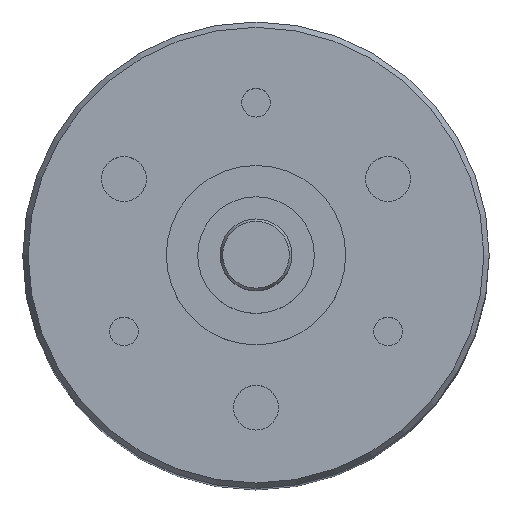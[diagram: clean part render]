
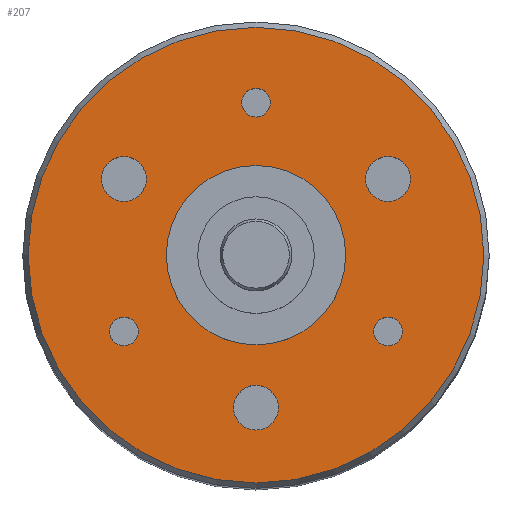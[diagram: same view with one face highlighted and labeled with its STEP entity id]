
A CAD part, top view. The second image highlights one B-rep face of the part: STEP entity #207.
In plain terms, the highlighted planar face has unit normal (0, 0, 1).
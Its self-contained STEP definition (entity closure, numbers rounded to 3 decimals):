
#207=ADVANCED_FACE('',(#569,#570,#571,#572,#573,#574,#575,#576),#314,.T.);
#314=PLANE('',#1834);
#569=FACE_BOUND('',#682,.T.);
#570=FACE_BOUND('',#683,.T.);
#571=FACE_BOUND('',#684,.T.);
#572=FACE_BOUND('',#685,.T.);
#573=FACE_BOUND('',#686,.T.);
#574=FACE_BOUND('',#687,.T.);
#575=FACE_BOUND('',#688,.T.);
#576=FACE_BOUND('',#689,.T.);
#682=EDGE_LOOP('',(#961));
#683=EDGE_LOOP('',(#962));
#684=EDGE_LOOP('',(#963));
#685=EDGE_LOOP('',(#964));
#686=EDGE_LOOP('',(#965));
#687=EDGE_LOOP('',(#966));
#688=EDGE_LOOP('',(#967));
#689=EDGE_LOOP('',(#968));
#961=ORIENTED_EDGE('',*,*,#1554,.T.);
#962=ORIENTED_EDGE('',*,*,#1555,.T.);
#963=ORIENTED_EDGE('',*,*,#1556,.T.);
#964=ORIENTED_EDGE('',*,*,#1557,.T.);
#965=ORIENTED_EDGE('',*,*,#1558,.T.);
#966=ORIENTED_EDGE('',*,*,#1559,.T.);
#967=ORIENTED_EDGE('',*,*,#1560,.T.);
#968=ORIENTED_EDGE('',*,*,#1561,.F.);
#1370=VERTEX_POINT('',#2816);
#1371=VERTEX_POINT('',#2818);
#1372=VERTEX_POINT('',#2820);
#1373=VERTEX_POINT('',#2822);
#1374=VERTEX_POINT('',#2824);
#1375=VERTEX_POINT('',#2826);
#1376=VERTEX_POINT('',#2828);
#1377=VERTEX_POINT('',#2830);
#1554=EDGE_CURVE('',#1370,#1370,#1700,.T.);
#1555=EDGE_CURVE('',#1371,#1371,#1701,.T.);
#1556=EDGE_CURVE('',#1372,#1372,#1702,.T.);
#1557=EDGE_CURVE('',#1373,#1373,#1703,.T.);
#1558=EDGE_CURVE('',#1374,#1374,#1704,.T.);
#1559=EDGE_CURVE('',#1375,#1375,#1705,.T.);
#1560=EDGE_CURVE('',#1376,#1376,#1706,.T.);
#1561=EDGE_CURVE('',#1377,#1377,#1707,.T.);
#1700=CIRCLE('',#1826,1.25);
#1701=CIRCLE('',#1827,1.25);
#1702=CIRCLE('',#1828,1.25);
#1703=CIRCLE('',#1829,0.8);
#1704=CIRCLE('',#1830,0.8);
#1705=CIRCLE('',#1831,0.8);
#1706=CIRCLE('',#1832,12.7);
#1707=CIRCLE('',#1833,5.);
#1826=AXIS2_PLACEMENT_3D('',#2815,#2184,#2185);
#1827=AXIS2_PLACEMENT_3D('',#2817,#2186,#2187);
#1828=AXIS2_PLACEMENT_3D('',#2819,#2188,#2189);
#1829=AXIS2_PLACEMENT_3D('',#2821,#2190,#2191);
#1830=AXIS2_PLACEMENT_3D('',#2823,#2192,#2193);
#1831=AXIS2_PLACEMENT_3D('',#2825,#2194,#2195);
#1832=AXIS2_PLACEMENT_3D('',#2827,#2196,#2197);
#1833=AXIS2_PLACEMENT_3D('',#2829,#2198,#2199);
#1834=AXIS2_PLACEMENT_3D('',#2831,#2200,#2201);
#2184=DIRECTION('',(0.,0.,-1.));
#2185=DIRECTION('',(0.5,0.866,0.));
#2186=DIRECTION('',(0.,0.,-1.));
#2187=DIRECTION('',(0.5,-0.866,0.));
#2188=DIRECTION('',(0.,0.,-1.));
#2189=DIRECTION('',(-1.,0.,0.));
#2190=DIRECTION('',(0.,0.,-1.));
#2191=DIRECTION('',(0.5,0.866,0.));
#2192=DIRECTION('',(0.,0.,-1.));
#2193=DIRECTION('',(0.5,-0.866,0.));
#2194=DIRECTION('',(0.,0.,-1.));
#2195=DIRECTION('',(-1.,0.,0.));
#2196=DIRECTION('',(0.,0.,1.));
#2197=DIRECTION('',(1.,0.,0.));
#2198=DIRECTION('',(0.,0.,1.));
#2199=DIRECTION('',(1.,0.,0.));
#2200=DIRECTION('',(0.,0.,1.));
#2201=DIRECTION('',(1.,0.,0.));
#2815=CARTESIAN_POINT('',(7.361,4.25,0.));
#2816=CARTESIAN_POINT('',(7.986,5.333,0.));
#2817=CARTESIAN_POINT('',(0.,-8.5,0.));
#2818=CARTESIAN_POINT('',(0.625,-9.583,0.));
#2819=CARTESIAN_POINT('',(-7.361,4.25,0.));
#2820=CARTESIAN_POINT('',(-8.611,4.25,0.));
#2821=CARTESIAN_POINT('',(7.361,-4.25,0.));
#2822=CARTESIAN_POINT('',(7.761,-3.557,0.));
#2823=CARTESIAN_POINT('',(-7.361,-4.25,0.));
#2824=CARTESIAN_POINT('',(-6.961,-4.943,0.));
#2825=CARTESIAN_POINT('',(0.,8.5,0.));
#2826=CARTESIAN_POINT('',(-0.8,8.5,0.));
#2827=CARTESIAN_POINT('',(0.,0.,0.));
#2828=CARTESIAN_POINT('',(12.7,0.,0.));
#2829=CARTESIAN_POINT('',(0.,0.,0.));
#2830=CARTESIAN_POINT('',(5.,0.,0.));
#2831=CARTESIAN_POINT('',(0.,0.,0.));
